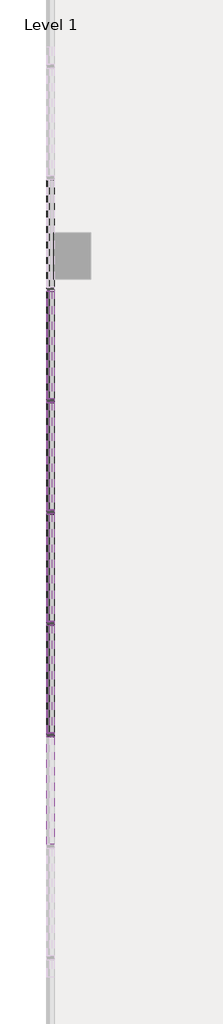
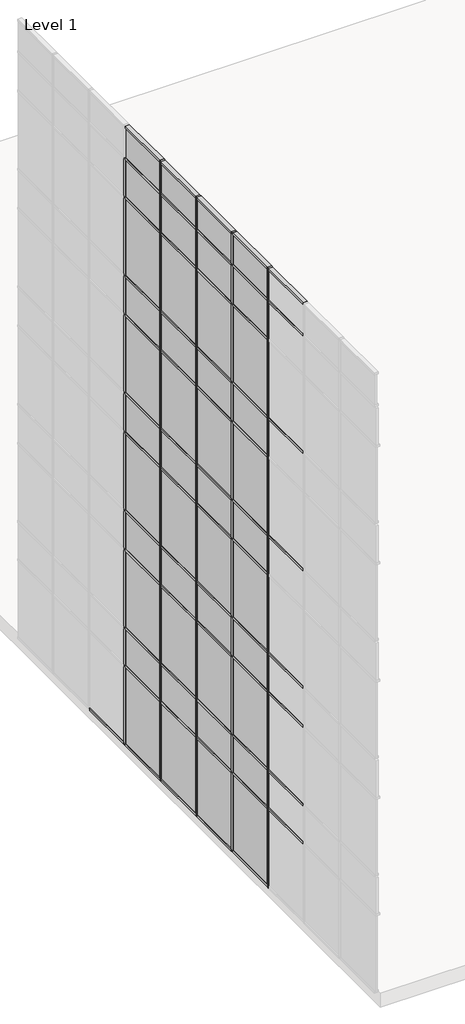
# One storey, part 2 of 23: 86 members, 44 plates.
"""IFC4 building model written with IfcOpenShell, lengths in millimetres."""

from ifc_helpers import new_model, si_unit, origin, place, context, project, spatial, transform, mapped, element, save
from components import member_f92b8aa2, member_810865a4, member_6d5c3e5e, member_9764dd38, system_panel_glazed_14c75400, system_panel_solid_5dfe6f83, system_panel_solid_e25e2004, system_panel_solid_b7551183

model = new_model("IFC4")

# Units and contexts
model_context = context("Model", 3, world=origin())
ifc_project = project(units=[si_unit("LENGTHUNIT", "METRE", prefix="MILLI")], contexts=[model_context])

# Site, building, storey
site = spatial("IfcSite", under=ifc_project)
building = spatial("IfcBuilding", under=site)
storey = spatial("IfcBuildingStorey", under=building, Name="Level 1", Elevation=0.0)

# Members
placement = place(None, origin())
member_shape = member_f92b8aa2(model_context)
element("IfcMember", 1, ObjectType="Rectangular Mullion : 2.5\" x 5\" rectangular", at=placement, inside=storey, context=model_context, shape_type="MappedRepresentation", body=[
    mapped(member_shape, transform((-68724.2599961, -22227.5103492, 18288.0), x_axis=(0.0, 1.0, 0.0), y_axis=(1.0, 0.0, 0.0), z_axis=(0.0, 0.0, -1.0))),
])
element("IfcMember", 2, ObjectType="Rectangular Mullion : 2.5\" x 5\" rectangular", at=placement, inside=storey, context=model_context, shape_type="MappedRepresentation", body=[
    mapped(member_shape, transform((-68724.2599961, -20398.7103492, 18288.0), x_axis=(0.0, 1.0, 0.0), y_axis=(1.0, 0.0, 0.0), z_axis=(0.0, 0.0, -1.0))),
])
element("IfcMember", 3, ObjectType="Rectangular Mullion : 2.5\" x 5\" rectangular", at=placement, inside=storey, context=model_context, shape_type="MappedRepresentation", body=[
    mapped(member_shape, transform((-68724.2599961, -18569.9103492, 18288.0), x_axis=(0.0, 1.0, 0.0), y_axis=(1.0, 0.0, 0.0), z_axis=(0.0, 0.0, -1.0))),
])
element("IfcMember", 4, ObjectType="Rectangular Mullion : 2.5\" x 5\" rectangular", at=placement, inside=storey, context=model_context, shape_type="MappedRepresentation", body=[
    mapped(member_shape, transform((-68724.2599961, -16741.1103492, 18288.0), x_axis=(0.0, 1.0, 0.0), y_axis=(1.0, 0.0, 0.0), z_axis=(0.0, 0.0, -1.0))),
])
member_2_shape = member_810865a4(model_context)
element("IfcMember", 5, ObjectType="Rectangular Mullion : 2.5\" x 5\" rectangular", at=placement, inside=storey, context=model_context, shape_type="MappedRepresentation", body=[
    mapped(member_2_shape, transform((-68724.2599961, -22227.5103492, 3657.6), x_axis=(0.0, 1.0, 0.0), y_axis=(1.0, 0.0, 0.0), z_axis=(0.0, 0.0, -1.0))),
])
element("IfcMember", 6, ObjectType="Rectangular Mullion : 2.5\" x 5\" rectangular", at=placement, inside=storey, context=model_context, shape_type="MappedRepresentation", body=[
    mapped(member_2_shape, transform((-68724.2599961, -20398.7103492, 3657.6), x_axis=(0.0, 1.0, 0.0), y_axis=(1.0, 0.0, 0.0), z_axis=(0.0, 0.0, -1.0))),
])
element("IfcMember", 7, ObjectType="Rectangular Mullion : 2.5\" x 5\" rectangular", at=placement, inside=storey, context=model_context, shape_type="MappedRepresentation", body=[
    mapped(member_2_shape, transform((-68724.2599961, -18569.9103492, 3657.6), x_axis=(0.0, 1.0, 0.0), y_axis=(1.0, 0.0, 0.0), z_axis=(0.0, 0.0, -1.0))),
])
element("IfcMember", 8, ObjectType="Rectangular Mullion : 2.5\" x 5\" rectangular", at=placement, inside=storey, context=model_context, shape_type="MappedRepresentation", body=[
    mapped(member_2_shape, transform((-68724.2599961, -16741.1103492, 3657.6), x_axis=(0.0, 1.0, 0.0), y_axis=(1.0, 0.0, 0.0), z_axis=(0.0, 0.0, -1.0))),
])
element("IfcMember", 9, ObjectType="Rectangular Mullion : 2.5\" x 5\" rectangular", at=placement, inside=storey, context=model_context, shape_type="MappedRepresentation", body=[
    mapped(member_2_shape, transform((-68724.2599961, -14912.3103492, 3657.6), x_axis=(0.0, 1.0, 0.0), y_axis=(1.0, 0.0, 0.0), z_axis=(0.0, 0.0, -1.0))),
])
element("IfcMember", 10, ObjectType="Rectangular Mullion : 2.5\" x 5\" rectangular", at=placement, inside=storey, context=model_context, shape_type="MappedRepresentation", body=[
    mapped(member_2_shape, transform((-68724.2599961, -22227.5103492, 7315.2), x_axis=(0.0, 1.0, 0.0), y_axis=(1.0, 0.0, 0.0), z_axis=(0.0, 0.0, -1.0))),
])
element("IfcMember", 11, ObjectType="Rectangular Mullion : 2.5\" x 5\" rectangular", at=placement, inside=storey, context=model_context, shape_type="MappedRepresentation", body=[
    mapped(member_2_shape, transform((-68724.2599961, -20398.7103492, 7315.2), x_axis=(0.0, 1.0, 0.0), y_axis=(1.0, 0.0, 0.0), z_axis=(0.0, 0.0, -1.0))),
])
element("IfcMember", 12, ObjectType="Rectangular Mullion : 2.5\" x 5\" rectangular", at=placement, inside=storey, context=model_context, shape_type="MappedRepresentation", body=[
    mapped(member_2_shape, transform((-68724.2599961, -18569.9103492, 7315.2), x_axis=(0.0, 1.0, 0.0), y_axis=(1.0, 0.0, 0.0), z_axis=(0.0, 0.0, -1.0))),
])
element("IfcMember", 13, ObjectType="Rectangular Mullion : 2.5\" x 5\" rectangular", at=placement, inside=storey, context=model_context, shape_type="MappedRepresentation", body=[
    mapped(member_2_shape, transform((-68724.2599961, -16741.1103492, 7315.2), x_axis=(0.0, 1.0, 0.0), y_axis=(1.0, 0.0, 0.0), z_axis=(0.0, 0.0, -1.0))),
])
element("IfcMember", 14, ObjectType="Rectangular Mullion : 2.5\" x 5\" rectangular", at=placement, inside=storey, context=model_context, shape_type="MappedRepresentation", body=[
    mapped(member_2_shape, transform((-68724.2599961, -14912.3103492, 7315.2), x_axis=(0.0, 1.0, 0.0), y_axis=(1.0, 0.0, 0.0), z_axis=(0.0, 0.0, -1.0))),
])
element("IfcMember", 15, ObjectType="Rectangular Mullion : 2.5\" x 5\" rectangular", at=placement, inside=storey, context=model_context, shape_type="MappedRepresentation", body=[
    mapped(member_2_shape, transform((-68724.2599961, -22227.5103492, 10972.8), x_axis=(0.0, 1.0, 0.0), y_axis=(1.0, 0.0, 0.0), z_axis=(0.0, 0.0, -1.0))),
])
element("IfcMember", 16, ObjectType="Rectangular Mullion : 2.5\" x 5\" rectangular", at=placement, inside=storey, context=model_context, shape_type="MappedRepresentation", body=[
    mapped(member_2_shape, transform((-68724.2599961, -20398.7103492, 10972.8), x_axis=(0.0, 1.0, 0.0), y_axis=(1.0, 0.0, 0.0), z_axis=(0.0, 0.0, -1.0))),
])
element("IfcMember", 17, ObjectType="Rectangular Mullion : 2.5\" x 5\" rectangular", at=placement, inside=storey, context=model_context, shape_type="MappedRepresentation", body=[
    mapped(member_2_shape, transform((-68724.2599961, -18569.9103492, 10972.8), x_axis=(0.0, 1.0, 0.0), y_axis=(1.0, 0.0, 0.0), z_axis=(0.0, 0.0, -1.0))),
])
element("IfcMember", 18, ObjectType="Rectangular Mullion : 2.5\" x 5\" rectangular", at=placement, inside=storey, context=model_context, shape_type="MappedRepresentation", body=[
    mapped(member_2_shape, transform((-68724.2599961, -16741.1103492, 10972.8), x_axis=(0.0, 1.0, 0.0), y_axis=(1.0, 0.0, 0.0), z_axis=(0.0, 0.0, -1.0))),
])
element("IfcMember", 19, ObjectType="Rectangular Mullion : 2.5\" x 5\" rectangular", at=placement, inside=storey, context=model_context, shape_type="MappedRepresentation", body=[
    mapped(member_2_shape, transform((-68724.2599961, -14912.3103492, 10972.8), x_axis=(0.0, 1.0, 0.0), y_axis=(1.0, 0.0, 0.0), z_axis=(0.0, 0.0, -1.0))),
])
element("IfcMember", 20, ObjectType="Rectangular Mullion : 2.5\" x 5\" rectangular", at=placement, inside=storey, context=model_context, shape_type="MappedRepresentation", body=[
    mapped(member_2_shape, transform((-68724.2599961, -22227.5103492, 14630.4), x_axis=(0.0, 1.0, 0.0), y_axis=(1.0, 0.0, 0.0), z_axis=(0.0, 0.0, -1.0))),
])
element("IfcMember", 21, ObjectType="Rectangular Mullion : 2.5\" x 5\" rectangular", at=placement, inside=storey, context=model_context, shape_type="MappedRepresentation", body=[
    mapped(member_2_shape, transform((-68724.2599961, -20398.7103492, 14630.4), x_axis=(0.0, 1.0, 0.0), y_axis=(1.0, 0.0, 0.0), z_axis=(0.0, 0.0, -1.0))),
])
element("IfcMember", 22, ObjectType="Rectangular Mullion : 2.5\" x 5\" rectangular", at=placement, inside=storey, context=model_context, shape_type="MappedRepresentation", body=[
    mapped(member_2_shape, transform((-68724.2599961, -18569.9103492, 14630.4), x_axis=(0.0, 1.0, 0.0), y_axis=(1.0, 0.0, 0.0), z_axis=(0.0, 0.0, -1.0))),
])
element("IfcMember", 23, ObjectType="Rectangular Mullion : 2.5\" x 5\" rectangular", at=placement, inside=storey, context=model_context, shape_type="MappedRepresentation", body=[
    mapped(member_2_shape, transform((-68724.2599961, -16741.1103492, 14630.4), x_axis=(0.0, 1.0, 0.0), y_axis=(1.0, 0.0, 0.0), z_axis=(0.0, 0.0, -1.0))),
])
element("IfcMember", 24, ObjectType="Rectangular Mullion : 2.5\" x 5\" rectangular", at=placement, inside=storey, context=model_context, shape_type="MappedRepresentation", body=[
    mapped(member_2_shape, transform((-68724.2599961, -14912.3103492, 14630.4), x_axis=(0.0, 1.0, 0.0), y_axis=(1.0, 0.0, 0.0), z_axis=(0.0, 0.0, -1.0))),
])
member_3_shape = member_6d5c3e5e(model_context)
element("IfcMember", 25, ObjectType="Rectangular Mullion : 2.5\" x 5\" rectangular", at=placement, inside=storey, context=model_context, shape_type="MappedRepresentation", body=[
    mapped(member_3_shape, transform((-68724.2599961, -22259.2603492, 19304.0), x_axis=(0.0, 0.0, 1.0), y_axis=(1.0, 0.0, 0.0), z_axis=(0.0, 1.0, 0.0))),
])
element("IfcMember", 26, ObjectType="Rectangular Mullion : 2.5\" x 5\" rectangular", at=placement, inside=storey, context=model_context, shape_type="MappedRepresentation", body=[
    mapped(member_3_shape, transform((-68724.2599961, -20430.4603492, 19304.0), x_axis=(0.0, 0.0, 1.0), y_axis=(1.0, 0.0, 0.0), z_axis=(0.0, 1.0, 0.0))),
])
element("IfcMember", 27, ObjectType="Rectangular Mullion : 2.5\" x 5\" rectangular", at=placement, inside=storey, context=model_context, shape_type="MappedRepresentation", body=[
    mapped(member_3_shape, transform((-68724.2599961, -18601.6603492, 19304.0), x_axis=(0.0, 0.0, 1.0), y_axis=(1.0, 0.0, 0.0), z_axis=(0.0, 1.0, 0.0))),
])
element("IfcMember", 28, ObjectType="Rectangular Mullion : 2.5\" x 5\" rectangular", at=placement, inside=storey, context=model_context, shape_type="MappedRepresentation", body=[
    mapped(member_3_shape, transform((-68724.2599961, -16772.8603492, 19304.0), x_axis=(0.0, 0.0, 1.0), y_axis=(1.0, 0.0, 0.0), z_axis=(0.0, 1.0, 0.0))),
])
element("IfcMember", 29, ObjectType="Rectangular Mullion : 2.5\" x 5\" rectangular", at=placement, inside=storey, context=model_context, shape_type="MappedRepresentation", body=[
    mapped(member_3_shape, transform((-68724.2599961, -14944.0603492, 19304.0), x_axis=(0.0, 0.0, 1.0), y_axis=(1.0, 0.0, 0.0), z_axis=(0.0, 1.0, 0.0))),
])
member_4_shape = member_9764dd38(model_context)
element("IfcMember", 30, ObjectType="Rectangular Mullion : 2.5\" x 5\" rectangular", at=placement, inside=storey, context=model_context, shape_type="MappedRepresentation", body=[
    mapped(member_4_shape, transform((-68724.2599961, -14944.0603492, 17068.8), x_axis=(0.0, 0.0, 1.0), y_axis=(1.0, 0.0, 0.0), z_axis=(0.0, 1.0, 0.0))),
])
element("IfcMember", 31, ObjectType="Rectangular Mullion : 2.5\" x 5\" rectangular", at=placement, inside=storey, context=model_context, shape_type="MappedRepresentation", body=[
    mapped(member_4_shape, transform((-68724.2599961, -16772.8603492, 17068.8), x_axis=(0.0, 0.0, 1.0), y_axis=(1.0, 0.0, 0.0), z_axis=(0.0, 1.0, 0.0))),
])
element("IfcMember", 32, ObjectType="Rectangular Mullion : 2.5\" x 5\" rectangular", at=placement, inside=storey, context=model_context, shape_type="MappedRepresentation", body=[
    mapped(member_4_shape, transform((-68724.2599961, -18601.6603492, 17068.8), x_axis=(0.0, 0.0, 1.0), y_axis=(1.0, 0.0, 0.0), z_axis=(0.0, 1.0, 0.0))),
])
element("IfcMember", 33, ObjectType="Rectangular Mullion : 2.5\" x 5\" rectangular", at=placement, inside=storey, context=model_context, shape_type="MappedRepresentation", body=[
    mapped(member_4_shape, transform((-68724.2599961, -20430.4603492, 17068.8), x_axis=(0.0, 0.0, 1.0), y_axis=(1.0, 0.0, 0.0), z_axis=(0.0, 1.0, 0.0))),
])
element("IfcMember", 34, ObjectType="Rectangular Mullion : 2.5\" x 5\" rectangular", at=placement, inside=storey, context=model_context, shape_type="MappedRepresentation", body=[
    mapped(member_4_shape, transform((-68724.2599961, -14944.0603492, 13411.2), x_axis=(0.0, 0.0, 1.0), y_axis=(1.0, 0.0, 0.0), z_axis=(0.0, 1.0, 0.0))),
])
element("IfcMember", 35, ObjectType="Rectangular Mullion : 2.5\" x 5\" rectangular", at=placement, inside=storey, context=model_context, shape_type="MappedRepresentation", body=[
    mapped(member_4_shape, transform((-68724.2599961, -16772.8603492, 13411.2), x_axis=(0.0, 0.0, 1.0), y_axis=(1.0, 0.0, 0.0), z_axis=(0.0, 1.0, 0.0))),
])
element("IfcMember", 36, ObjectType="Rectangular Mullion : 2.5\" x 5\" rectangular", at=placement, inside=storey, context=model_context, shape_type="MappedRepresentation", body=[
    mapped(member_4_shape, transform((-68724.2599961, -18601.6603492, 13411.2), x_axis=(0.0, 0.0, 1.0), y_axis=(1.0, 0.0, 0.0), z_axis=(0.0, 1.0, 0.0))),
])
element("IfcMember", 37, ObjectType="Rectangular Mullion : 2.5\" x 5\" rectangular", at=placement, inside=storey, context=model_context, shape_type="MappedRepresentation", body=[
    mapped(member_4_shape, transform((-68724.2599961, -20430.4603492, 13411.2), x_axis=(0.0, 0.0, 1.0), y_axis=(1.0, 0.0, 0.0), z_axis=(0.0, 1.0, 0.0))),
])
element("IfcMember", 38, ObjectType="Rectangular Mullion : 2.5\" x 5\" rectangular", at=placement, inside=storey, context=model_context, shape_type="MappedRepresentation", body=[
    mapped(member_4_shape, transform((-68724.2599961, -14944.0603492, 9753.6), x_axis=(0.0, 0.0, 1.0), y_axis=(1.0, 0.0, 0.0), z_axis=(0.0, 1.0, 0.0))),
])
element("IfcMember", 39, ObjectType="Rectangular Mullion : 2.5\" x 5\" rectangular", at=placement, inside=storey, context=model_context, shape_type="MappedRepresentation", body=[
    mapped(member_4_shape, transform((-68724.2599961, -16772.8603492, 9753.6), x_axis=(0.0, 0.0, 1.0), y_axis=(1.0, 0.0, 0.0), z_axis=(0.0, 1.0, 0.0))),
])
element("IfcMember", 40, ObjectType="Rectangular Mullion : 2.5\" x 5\" rectangular", at=placement, inside=storey, context=model_context, shape_type="MappedRepresentation", body=[
    mapped(member_4_shape, transform((-68724.2599961, -18601.6603492, 9753.6), x_axis=(0.0, 0.0, 1.0), y_axis=(1.0, 0.0, 0.0), z_axis=(0.0, 1.0, 0.0))),
])
element("IfcMember", 41, ObjectType="Rectangular Mullion : 2.5\" x 5\" rectangular", at=placement, inside=storey, context=model_context, shape_type="MappedRepresentation", body=[
    mapped(member_4_shape, transform((-68724.2599961, -20430.4603492, 9753.6), x_axis=(0.0, 0.0, 1.0), y_axis=(1.0, 0.0, 0.0), z_axis=(0.0, 1.0, 0.0))),
])
element("IfcMember", 42, ObjectType="Rectangular Mullion : 2.5\" x 5\" rectangular", at=placement, inside=storey, context=model_context, shape_type="MappedRepresentation", body=[
    mapped(member_4_shape, transform((-68724.2599961, -14944.0603492, 6096.0), x_axis=(0.0, 0.0, 1.0), y_axis=(1.0, 0.0, 0.0), z_axis=(0.0, 1.0, 0.0))),
])
element("IfcMember", 43, ObjectType="Rectangular Mullion : 2.5\" x 5\" rectangular", at=placement, inside=storey, context=model_context, shape_type="MappedRepresentation", body=[
    mapped(member_4_shape, transform((-68724.2599961, -16772.8603492, 6096.0), x_axis=(0.0, 0.0, 1.0), y_axis=(1.0, 0.0, 0.0), z_axis=(0.0, 1.0, 0.0))),
])
element("IfcMember", 44, ObjectType="Rectangular Mullion : 2.5\" x 5\" rectangular", at=placement, inside=storey, context=model_context, shape_type="MappedRepresentation", body=[
    mapped(member_4_shape, transform((-68724.2599961, -18601.6603492, 6096.0), x_axis=(0.0, 0.0, 1.0), y_axis=(1.0, 0.0, 0.0), z_axis=(0.0, 1.0, 0.0))),
])
element("IfcMember", 45, ObjectType="Rectangular Mullion : 2.5\" x 5\" rectangular", at=placement, inside=storey, context=model_context, shape_type="MappedRepresentation", body=[
    mapped(member_4_shape, transform((-68724.2599961, -20430.4603492, 6096.0), x_axis=(0.0, 0.0, 1.0), y_axis=(1.0, 0.0, 0.0), z_axis=(0.0, 1.0, 0.0))),
])
element("IfcMember", 46, ObjectType="Rectangular Mullion : 2.5\" x 5\" rectangular", at=placement, inside=storey, context=model_context, shape_type="MappedRepresentation", body=[
    mapped(member_4_shape, transform((-68724.2599961, -22259.2603492, 6096.0), x_axis=(0.0, 0.0, 1.0), y_axis=(1.0, 0.0, 0.0), z_axis=(0.0, 1.0, 0.0))),
])
element("IfcMember", 47, ObjectType="Rectangular Mullion : 2.5\" x 5\" rectangular", at=placement, inside=storey, context=model_context, shape_type="MappedRepresentation", body=[
    mapped(member_4_shape, transform((-68724.2599961, -14944.0603492, 2470.15), x_axis=(0.0, 0.0, 1.0), y_axis=(1.0, 0.0, 0.0), z_axis=(0.0, 1.0, 0.0))),
])
element("IfcMember", 48, ObjectType="Rectangular Mullion : 2.5\" x 5\" rectangular", at=placement, inside=storey, context=model_context, shape_type="MappedRepresentation", body=[
    mapped(member_4_shape, transform((-68724.2599961, -16772.8603492, 2470.15), x_axis=(0.0, 0.0, 1.0), y_axis=(1.0, 0.0, 0.0), z_axis=(0.0, 1.0, 0.0))),
])
element("IfcMember", 49, ObjectType="Rectangular Mullion : 2.5\" x 5\" rectangular", at=placement, inside=storey, context=model_context, shape_type="MappedRepresentation", body=[
    mapped(member_4_shape, transform((-68724.2599961, -18601.6603492, 2470.15), x_axis=(0.0, 0.0, 1.0), y_axis=(1.0, 0.0, 0.0), z_axis=(0.0, 1.0, 0.0))),
])
element("IfcMember", 50, ObjectType="Rectangular Mullion : 2.5\" x 5\" rectangular", at=placement, inside=storey, context=model_context, shape_type="MappedRepresentation", body=[
    mapped(member_4_shape, transform((-68724.2599961, -20430.4603492, 2470.15), x_axis=(0.0, 0.0, 1.0), y_axis=(1.0, 0.0, 0.0), z_axis=(0.0, 1.0, 0.0))),
])
element("IfcMember", 51, ObjectType="Rectangular Mullion : 2.5\" x 5\" rectangular", at=placement, inside=storey, context=model_context, shape_type="MappedRepresentation", body=[
    mapped(member_4_shape, transform((-68724.2599961, -22259.2603492, 2470.15), x_axis=(0.0, 0.0, 1.0), y_axis=(1.0, 0.0, 0.0), z_axis=(0.0, 1.0, 0.0))),
])
element("IfcMember", 52, ObjectType="Rectangular Mullion : 2.5\" x 5\" rectangular", at=placement, inside=storey, context=model_context, shape_type="MappedRepresentation", body=[
    mapped(member_2_shape, transform((-68724.2599961, -22227.5103492, 0.0), x_axis=(0.0, 1.0, 0.0), y_axis=(1.0, 0.0, 0.0), z_axis=(0.0, 0.0, -1.0))),
])
element("IfcMember", 53, ObjectType="Rectangular Mullion : 2.5\" x 5\" rectangular", at=placement, inside=storey, context=model_context, shape_type="MappedRepresentation", body=[
    mapped(member_2_shape, transform((-68724.2599961, -20398.7103492, 0.0), x_axis=(0.0, 1.0, 0.0), y_axis=(1.0, 0.0, 0.0), z_axis=(0.0, 0.0, -1.0))),
])
element("IfcMember", 54, ObjectType="Rectangular Mullion : 2.5\" x 5\" rectangular", at=placement, inside=storey, context=model_context, shape_type="MappedRepresentation", body=[
    mapped(member_2_shape, transform((-68724.2599961, -18569.9103492, 0.0), x_axis=(0.0, 1.0, 0.0), y_axis=(1.0, 0.0, 0.0), z_axis=(0.0, 0.0, -1.0))),
])
element("IfcMember", 55, ObjectType="Rectangular Mullion : 2.5\" x 5\" rectangular", at=placement, inside=storey, context=model_context, shape_type="MappedRepresentation", body=[
    mapped(member_2_shape, transform((-68724.2599961, -16741.1103492, 0.0), x_axis=(0.0, 1.0, 0.0), y_axis=(1.0, 0.0, 0.0), z_axis=(0.0, 0.0, -1.0))),
])
element("IfcMember", 56, ObjectType="Rectangular Mullion : 2.5\" x 5\" rectangular", at=placement, inside=storey, context=model_context, shape_type="MappedRepresentation", body=[
    mapped(member_2_shape, transform((-68724.2599961, -14912.3103492, 0.0), x_axis=(0.0, 1.0, 0.0), y_axis=(1.0, 0.0, 0.0), z_axis=(0.0, 0.0, -1.0))),
])
element("IfcMember", 57, ObjectType="Rectangular Mullion : 2.5\" x 5\" rectangular", at=placement, inside=storey, context=model_context, shape_type="MappedRepresentation", body=[
    mapped(member_3_shape, transform((-68724.2599961, -22195.7603492, 0.0), x_axis=(0.0, 0.0, -1.0), y_axis=(1.0, 0.0, 0.0), z_axis=(0.0, -1.0, 0.0))),
])
element("IfcMember", 58, ObjectType="Rectangular Mullion : 2.5\" x 5\" rectangular", at=placement, inside=storey, context=model_context, shape_type="MappedRepresentation", body=[
    mapped(member_3_shape, transform((-68724.2599961, -20366.9603492, 0.0), x_axis=(0.0, 0.0, -1.0), y_axis=(1.0, 0.0, 0.0), z_axis=(0.0, -1.0, 0.0))),
])
element("IfcMember", 59, ObjectType="Rectangular Mullion : 2.5\" x 5\" rectangular", at=placement, inside=storey, context=model_context, shape_type="MappedRepresentation", body=[
    mapped(member_3_shape, transform((-68724.2599961, -18538.1603492, 0.0), x_axis=(0.0, 0.0, -1.0), y_axis=(1.0, 0.0, 0.0), z_axis=(0.0, -1.0, 0.0))),
])
element("IfcMember", 60, ObjectType="Rectangular Mullion : 2.5\" x 5\" rectangular", at=placement, inside=storey, context=model_context, shape_type="MappedRepresentation", body=[
    mapped(member_3_shape, transform((-68724.2599961, -16709.3603492, 0.0), x_axis=(0.0, 0.0, -1.0), y_axis=(1.0, 0.0, 0.0), z_axis=(0.0, -1.0, 0.0))),
])
element("IfcMember", 61, ObjectType="Rectangular Mullion : 2.5\" x 5\" rectangular", at=placement, inside=storey, context=model_context, shape_type="MappedRepresentation", body=[
    mapped(member_3_shape, transform((-68724.2599961, -14880.5603492, 0.0), x_axis=(0.0, 0.0, -1.0), y_axis=(1.0, 0.0, 0.0), z_axis=(0.0, -1.0, 0.0))),
])
element("IfcMember", 62, ObjectType="Rectangular Mullion : 2.5\" x 5\" rectangular", at=placement, inside=storey, context=model_context, shape_type="MappedRepresentation", body=[
    mapped(member_4_shape, transform((-68724.2599961, -22259.2603492, 3657.6), x_axis=(0.0, 0.0, 1.0), y_axis=(1.0, 0.0, 0.0), z_axis=(0.0, 1.0, 0.0))),
])
element("IfcMember", 63, ObjectType="Rectangular Mullion : 2.5\" x 5\" rectangular", at=placement, inside=storey, context=model_context, shape_type="MappedRepresentation", body=[
    mapped(member_4_shape, transform((-68724.2599961, -20430.4603492, 3657.6), x_axis=(0.0, 0.0, 1.0), y_axis=(1.0, 0.0, 0.0), z_axis=(0.0, 1.0, 0.0))),
])
element("IfcMember", 64, ObjectType="Rectangular Mullion : 2.5\" x 5\" rectangular", at=placement, inside=storey, context=model_context, shape_type="MappedRepresentation", body=[
    mapped(member_4_shape, transform((-68724.2599961, -18601.6603492, 3657.6), x_axis=(0.0, 0.0, 1.0), y_axis=(1.0, 0.0, 0.0), z_axis=(0.0, 1.0, 0.0))),
])
element("IfcMember", 65, ObjectType="Rectangular Mullion : 2.5\" x 5\" rectangular", at=placement, inside=storey, context=model_context, shape_type="MappedRepresentation", body=[
    mapped(member_4_shape, transform((-68724.2599961, -16772.8603492, 3657.6), x_axis=(0.0, 0.0, 1.0), y_axis=(1.0, 0.0, 0.0), z_axis=(0.0, 1.0, 0.0))),
])
element("IfcMember", 66, ObjectType="Rectangular Mullion : 2.5\" x 5\" rectangular", at=placement, inside=storey, context=model_context, shape_type="MappedRepresentation", body=[
    mapped(member_4_shape, transform((-68724.2599961, -14944.0603492, 3657.6), x_axis=(0.0, 0.0, 1.0), y_axis=(1.0, 0.0, 0.0), z_axis=(0.0, 1.0, 0.0))),
])
element("IfcMember", 67, ObjectType="Rectangular Mullion : 2.5\" x 5\" rectangular", at=placement, inside=storey, context=model_context, shape_type="MappedRepresentation", body=[
    mapped(member_4_shape, transform((-68724.2599961, -22259.2603492, 7315.2), x_axis=(0.0, 0.0, 1.0), y_axis=(1.0, 0.0, 0.0), z_axis=(0.0, 1.0, 0.0))),
])
element("IfcMember", 68, ObjectType="Rectangular Mullion : 2.5\" x 5\" rectangular", at=placement, inside=storey, context=model_context, shape_type="MappedRepresentation", body=[
    mapped(member_4_shape, transform((-68724.2599961, -20430.4603492, 7315.2), x_axis=(0.0, 0.0, 1.0), y_axis=(1.0, 0.0, 0.0), z_axis=(0.0, 1.0, 0.0))),
])
element("IfcMember", 69, ObjectType="Rectangular Mullion : 2.5\" x 5\" rectangular", at=placement, inside=storey, context=model_context, shape_type="MappedRepresentation", body=[
    mapped(member_4_shape, transform((-68724.2599961, -18601.6603492, 7315.2), x_axis=(0.0, 0.0, 1.0), y_axis=(1.0, 0.0, 0.0), z_axis=(0.0, 1.0, 0.0))),
])
element("IfcMember", 70, ObjectType="Rectangular Mullion : 2.5\" x 5\" rectangular", at=placement, inside=storey, context=model_context, shape_type="MappedRepresentation", body=[
    mapped(member_4_shape, transform((-68724.2599961, -16772.8603492, 7315.2), x_axis=(0.0, 0.0, 1.0), y_axis=(1.0, 0.0, 0.0), z_axis=(0.0, 1.0, 0.0))),
])
element("IfcMember", 71, ObjectType="Rectangular Mullion : 2.5\" x 5\" rectangular", at=placement, inside=storey, context=model_context, shape_type="MappedRepresentation", body=[
    mapped(member_4_shape, transform((-68724.2599961, -14944.0603492, 7315.2), x_axis=(0.0, 0.0, 1.0), y_axis=(1.0, 0.0, 0.0), z_axis=(0.0, 1.0, 0.0))),
])
element("IfcMember", 72, ObjectType="Rectangular Mullion : 2.5\" x 5\" rectangular", at=placement, inside=storey, context=model_context, shape_type="MappedRepresentation", body=[
    mapped(member_4_shape, transform((-68724.2599961, -22259.2603492, 10972.8), x_axis=(0.0, 0.0, 1.0), y_axis=(1.0, 0.0, 0.0), z_axis=(0.0, 1.0, 0.0))),
])
element("IfcMember", 73, ObjectType="Rectangular Mullion : 2.5\" x 5\" rectangular", at=placement, inside=storey, context=model_context, shape_type="MappedRepresentation", body=[
    mapped(member_4_shape, transform((-68724.2599961, -20430.4603492, 10972.8), x_axis=(0.0, 0.0, 1.0), y_axis=(1.0, 0.0, 0.0), z_axis=(0.0, 1.0, 0.0))),
])
element("IfcMember", 74, ObjectType="Rectangular Mullion : 2.5\" x 5\" rectangular", at=placement, inside=storey, context=model_context, shape_type="MappedRepresentation", body=[
    mapped(member_4_shape, transform((-68724.2599961, -18601.6603492, 10972.8), x_axis=(0.0, 0.0, 1.0), y_axis=(1.0, 0.0, 0.0), z_axis=(0.0, 1.0, 0.0))),
])
element("IfcMember", 75, ObjectType="Rectangular Mullion : 2.5\" x 5\" rectangular", at=placement, inside=storey, context=model_context, shape_type="MappedRepresentation", body=[
    mapped(member_4_shape, transform((-68724.2599961, -16772.8603492, 10972.8), x_axis=(0.0, 0.0, 1.0), y_axis=(1.0, 0.0, 0.0), z_axis=(0.0, 1.0, 0.0))),
])
element("IfcMember", 76, ObjectType="Rectangular Mullion : 2.5\" x 5\" rectangular", at=placement, inside=storey, context=model_context, shape_type="MappedRepresentation", body=[
    mapped(member_4_shape, transform((-68724.2599961, -14944.0603492, 10972.8), x_axis=(0.0, 0.0, 1.0), y_axis=(1.0, 0.0, 0.0), z_axis=(0.0, 1.0, 0.0))),
])
element("IfcMember", 77, ObjectType="Rectangular Mullion : 2.5\" x 5\" rectangular", at=placement, inside=storey, context=model_context, shape_type="MappedRepresentation", body=[
    mapped(member_4_shape, transform((-68724.2599961, -22259.2603492, 14630.4), x_axis=(0.0, 0.0, 1.0), y_axis=(1.0, 0.0, 0.0), z_axis=(0.0, 1.0, 0.0))),
])
element("IfcMember", 78, ObjectType="Rectangular Mullion : 2.5\" x 5\" rectangular", at=placement, inside=storey, context=model_context, shape_type="MappedRepresentation", body=[
    mapped(member_4_shape, transform((-68724.2599961, -20430.4603492, 14630.4), x_axis=(0.0, 0.0, 1.0), y_axis=(1.0, 0.0, 0.0), z_axis=(0.0, 1.0, 0.0))),
])
element("IfcMember", 79, ObjectType="Rectangular Mullion : 2.5\" x 5\" rectangular", at=placement, inside=storey, context=model_context, shape_type="MappedRepresentation", body=[
    mapped(member_4_shape, transform((-68724.2599961, -18601.6603492, 14630.4), x_axis=(0.0, 0.0, 1.0), y_axis=(1.0, 0.0, 0.0), z_axis=(0.0, 1.0, 0.0))),
])
element("IfcMember", 80, ObjectType="Rectangular Mullion : 2.5\" x 5\" rectangular", at=placement, inside=storey, context=model_context, shape_type="MappedRepresentation", body=[
    mapped(member_4_shape, transform((-68724.2599961, -16772.8603492, 14630.4), x_axis=(0.0, 0.0, 1.0), y_axis=(1.0, 0.0, 0.0), z_axis=(0.0, 1.0, 0.0))),
])
element("IfcMember", 81, ObjectType="Rectangular Mullion : 2.5\" x 5\" rectangular", at=placement, inside=storey, context=model_context, shape_type="MappedRepresentation", body=[
    mapped(member_4_shape, transform((-68724.2599961, -14944.0603492, 14630.4), x_axis=(0.0, 0.0, 1.0), y_axis=(1.0, 0.0, 0.0), z_axis=(0.0, 1.0, 0.0))),
])
element("IfcMember", 82, ObjectType="Rectangular Mullion : 2.5\" x 5\" rectangular", at=placement, inside=storey, context=model_context, shape_type="MappedRepresentation", body=[
    mapped(member_4_shape, transform((-68724.2599961, -22259.2603492, 18288.0), x_axis=(0.0, 0.0, 1.0), y_axis=(1.0, 0.0, 0.0), z_axis=(0.0, 1.0, 0.0))),
])
element("IfcMember", 83, ObjectType="Rectangular Mullion : 2.5\" x 5\" rectangular", at=placement, inside=storey, context=model_context, shape_type="MappedRepresentation", body=[
    mapped(member_4_shape, transform((-68724.2599961, -20430.4603492, 18288.0), x_axis=(0.0, 0.0, 1.0), y_axis=(1.0, 0.0, 0.0), z_axis=(0.0, 1.0, 0.0))),
])
element("IfcMember", 84, ObjectType="Rectangular Mullion : 2.5\" x 5\" rectangular", at=placement, inside=storey, context=model_context, shape_type="MappedRepresentation", body=[
    mapped(member_4_shape, transform((-68724.2599961, -18601.6603492, 18288.0), x_axis=(0.0, 0.0, 1.0), y_axis=(1.0, 0.0, 0.0), z_axis=(0.0, 1.0, 0.0))),
])
element("IfcMember", 85, ObjectType="Rectangular Mullion : 2.5\" x 5\" rectangular", at=placement, inside=storey, context=model_context, shape_type="MappedRepresentation", body=[
    mapped(member_4_shape, transform((-68724.2599961, -16772.8603492, 18288.0), x_axis=(0.0, 0.0, 1.0), y_axis=(1.0, 0.0, 0.0), z_axis=(0.0, 1.0, 0.0))),
])
element("IfcMember", 86, ObjectType="Rectangular Mullion : 2.5\" x 5\" rectangular", at=placement, inside=storey, context=model_context, shape_type="MappedRepresentation", body=[
    mapped(member_4_shape, transform((-68724.2599961, -14944.0603492, 18288.0), x_axis=(0.0, 0.0, 1.0), y_axis=(1.0, 0.0, 0.0), z_axis=(0.0, 1.0, 0.0))),
])

# Plates
system_panel_glazed_shape = system_panel_glazed_14c75400(model_context)
element("IfcPlate", 87, ObjectType="System Panel : Glazed", at=placement, inside=storey, context=model_context, shape_type="MappedRepresentation", body=[
    mapped(system_panel_glazed_shape, transform((-68724.2599961, -15826.7103492, 14662.15), x_axis=(0.0, 1.0, 0.0), y_axis=(-1.0, 0.0, 0.0), z_axis=(0.0, 0.0, 1.0))),
])
element("IfcPlate", 88, ObjectType="System Panel : Glazed", at=placement, inside=storey, context=model_context, shape_type="MappedRepresentation", body=[
    mapped(system_panel_glazed_shape, transform((-68724.2599961, -17655.5103492, 14662.15), x_axis=(0.0, 1.0, 0.0), y_axis=(-1.0, 0.0, 0.0), z_axis=(0.0, 0.0, 1.0))),
])
element("IfcPlate", 89, ObjectType="System Panel : Glazed", at=placement, inside=storey, context=model_context, shape_type="MappedRepresentation", body=[
    mapped(system_panel_glazed_shape, transform((-68724.2599961, -19484.3103492, 14662.15), x_axis=(0.0, 1.0, 0.0), y_axis=(-1.0, 0.0, 0.0), z_axis=(0.0, 0.0, 1.0))),
])
element("IfcPlate", 90, ObjectType="System Panel : Glazed", at=placement, inside=storey, context=model_context, shape_type="MappedRepresentation", body=[
    mapped(system_panel_glazed_shape, transform((-68724.2599961, -21313.1103492, 14662.15), x_axis=(0.0, 1.0, 0.0), y_axis=(-1.0, 0.0, 0.0), z_axis=(0.0, 0.0, 1.0))),
])
element("IfcPlate", 91, ObjectType="System Panel : Glazed", at=placement, inside=storey, context=model_context, shape_type="MappedRepresentation", body=[
    mapped(system_panel_glazed_shape, transform((-68724.2599961, -15826.7103492, 11004.55), x_axis=(0.0, 1.0, 0.0), y_axis=(-1.0, 0.0, 0.0), z_axis=(0.0, 0.0, 1.0))),
])
element("IfcPlate", 92, ObjectType="System Panel : Glazed", at=placement, inside=storey, context=model_context, shape_type="MappedRepresentation", body=[
    mapped(system_panel_glazed_shape, transform((-68724.2599961, -17655.5103492, 11004.55), x_axis=(0.0, 1.0, 0.0), y_axis=(-1.0, 0.0, 0.0), z_axis=(0.0, 0.0, 1.0))),
])
element("IfcPlate", 93, ObjectType="System Panel : Glazed", at=placement, inside=storey, context=model_context, shape_type="MappedRepresentation", body=[
    mapped(system_panel_glazed_shape, transform((-68724.2599961, -19484.3103492, 11004.55), x_axis=(0.0, 1.0, 0.0), y_axis=(-1.0, 0.0, 0.0), z_axis=(0.0, 0.0, 1.0))),
])
element("IfcPlate", 94, ObjectType="System Panel : Glazed", at=placement, inside=storey, context=model_context, shape_type="MappedRepresentation", body=[
    mapped(system_panel_glazed_shape, transform((-68724.2599961, -21313.1103492, 11004.55), x_axis=(0.0, 1.0, 0.0), y_axis=(-1.0, 0.0, 0.0), z_axis=(0.0, 0.0, 1.0))),
])
element("IfcPlate", 95, ObjectType="System Panel : Glazed", at=placement, inside=storey, context=model_context, shape_type="MappedRepresentation", body=[
    mapped(system_panel_glazed_shape, transform((-68724.2599961, -15826.7103492, 7346.95), x_axis=(0.0, 1.0, 0.0), y_axis=(-1.0, 0.0, 0.0), z_axis=(0.0, 0.0, 1.0))),
])
element("IfcPlate", 96, ObjectType="System Panel : Glazed", at=placement, inside=storey, context=model_context, shape_type="MappedRepresentation", body=[
    mapped(system_panel_glazed_shape, transform((-68724.2599961, -17655.5103492, 7346.95), x_axis=(0.0, 1.0, 0.0), y_axis=(-1.0, 0.0, 0.0), z_axis=(0.0, 0.0, 1.0))),
])
element("IfcPlate", 97, ObjectType="System Panel : Glazed", at=placement, inside=storey, context=model_context, shape_type="MappedRepresentation", body=[
    mapped(system_panel_glazed_shape, transform((-68724.2599961, -19484.3103492, 7346.95), x_axis=(0.0, 1.0, 0.0), y_axis=(-1.0, 0.0, 0.0), z_axis=(0.0, 0.0, 1.0))),
])
element("IfcPlate", 98, ObjectType="System Panel : Glazed", at=placement, inside=storey, context=model_context, shape_type="MappedRepresentation", body=[
    mapped(system_panel_glazed_shape, transform((-68724.2599961, -21313.1103492, 7346.95), x_axis=(0.0, 1.0, 0.0), y_axis=(-1.0, 0.0, 0.0), z_axis=(0.0, 0.0, 1.0))),
])
element("IfcPlate", 99, ObjectType="System Panel : Glazed", at=placement, inside=storey, context=model_context, shape_type="MappedRepresentation", body=[
    mapped(system_panel_glazed_shape, transform((-68724.2599961, -15826.7103492, 3689.35), x_axis=(0.0, 1.0, 0.0), y_axis=(-1.0, 0.0, 0.0), z_axis=(0.0, 0.0, 1.0))),
])
element("IfcPlate", 100, ObjectType="System Panel : Glazed", at=placement, inside=storey, context=model_context, shape_type="MappedRepresentation", body=[
    mapped(system_panel_glazed_shape, transform((-68724.2599961, -17655.5103492, 3689.35), x_axis=(0.0, 1.0, 0.0), y_axis=(-1.0, 0.0, 0.0), z_axis=(0.0, 0.0, 1.0))),
])
element("IfcPlate", 101, ObjectType="System Panel : Glazed", at=placement, inside=storey, context=model_context, shape_type="MappedRepresentation", body=[
    mapped(system_panel_glazed_shape, transform((-68724.2599961, -19484.3103492, 3689.35), x_axis=(0.0, 1.0, 0.0), y_axis=(-1.0, 0.0, 0.0), z_axis=(0.0, 0.0, 1.0))),
])
element("IfcPlate", 102, ObjectType="System Panel : Glazed", at=placement, inside=storey, context=model_context, shape_type="MappedRepresentation", body=[
    mapped(system_panel_glazed_shape, transform((-68724.2599961, -21313.1103492, 3689.35), x_axis=(0.0, 1.0, 0.0), y_axis=(-1.0, 0.0, 0.0), z_axis=(0.0, 0.0, 1.0))),
])
element("IfcPlate", 103, ObjectType="System Panel : Glazed", at=placement, inside=storey, context=model_context, shape_type="MappedRepresentation", body=[
    mapped(system_panel_glazed_shape, transform((-68724.2599961, -15826.7103492, 63.5), x_axis=(0.0, 1.0, 0.0), y_axis=(-1.0, 0.0, 0.0), z_axis=(0.0, 0.0, 1.0))),
])
element("IfcPlate", 104, ObjectType="System Panel : Glazed", at=placement, inside=storey, context=model_context, shape_type="MappedRepresentation", body=[
    mapped(system_panel_glazed_shape, transform((-68724.2599961, -17655.5103492, 63.5), x_axis=(0.0, 1.0, 0.0), y_axis=(-1.0, 0.0, 0.0), z_axis=(0.0, 0.0, 1.0))),
])
element("IfcPlate", 105, ObjectType="System Panel : Glazed", at=placement, inside=storey, context=model_context, shape_type="MappedRepresentation", body=[
    mapped(system_panel_glazed_shape, transform((-68724.2599961, -19484.3103492, 63.5), x_axis=(0.0, 1.0, 0.0), y_axis=(-1.0, 0.0, 0.0), z_axis=(0.0, 0.0, 1.0))),
])
element("IfcPlate", 106, ObjectType="System Panel : Glazed", at=placement, inside=storey, context=model_context, shape_type="MappedRepresentation", body=[
    mapped(system_panel_glazed_shape, transform((-68724.2599961, -21313.1103492, 63.5), x_axis=(0.0, 1.0, 0.0), y_axis=(-1.0, 0.0, 0.0), z_axis=(0.0, 0.0, 1.0))),
])
system_panel_solid_shape = system_panel_solid_5dfe6f83(model_context)
element("IfcPlate", 107, ObjectType="System Panel : Solid", at=placement, inside=storey, context=model_context, shape_type="MappedRepresentation", body=[
    mapped(system_panel_solid_shape, transform((-68724.2599961, -21313.1103492, 18319.75), x_axis=(0.0, 1.0, 0.0), y_axis=(-1.0, 0.0, 0.0), z_axis=(0.0, 0.0, 1.0))),
])
element("IfcPlate", 108, ObjectType="System Panel : Solid", at=placement, inside=storey, context=model_context, shape_type="MappedRepresentation", body=[
    mapped(system_panel_solid_shape, transform((-68724.2599961, -19484.3103492, 18319.75), x_axis=(0.0, 1.0, 0.0), y_axis=(-1.0, 0.0, 0.0), z_axis=(0.0, 0.0, 1.0))),
])
element("IfcPlate", 109, ObjectType="System Panel : Solid", at=placement, inside=storey, context=model_context, shape_type="MappedRepresentation", body=[
    mapped(system_panel_solid_shape, transform((-68724.2599961, -17655.5103492, 18319.75), x_axis=(0.0, 1.0, 0.0), y_axis=(-1.0, 0.0, 0.0), z_axis=(0.0, 0.0, 1.0))),
])
element("IfcPlate", 110, ObjectType="System Panel : Solid", at=placement, inside=storey, context=model_context, shape_type="MappedRepresentation", body=[
    mapped(system_panel_solid_shape, transform((-68724.2599961, -15826.7103492, 18319.75), x_axis=(0.0, 1.0, 0.0), y_axis=(-1.0, 0.0, 0.0), z_axis=(0.0, 0.0, 1.0))),
])
system_panel_solid_2_shape = system_panel_solid_e25e2004(model_context)
element("IfcPlate", 111, ObjectType="System Panel : Solid", at=placement, inside=storey, context=model_context, shape_type="MappedRepresentation", body=[
    mapped(system_panel_solid_2_shape, transform((-68724.2599961, -15826.7103492, 17100.55), x_axis=(0.0, 1.0, 0.0), y_axis=(-1.0, 0.0, 0.0), z_axis=(0.0, 0.0, 1.0))),
])
element("IfcPlate", 112, ObjectType="System Panel : Solid", at=placement, inside=storey, context=model_context, shape_type="MappedRepresentation", body=[
    mapped(system_panel_solid_2_shape, transform((-68724.2599961, -17655.5103492, 17100.55), x_axis=(0.0, 1.0, 0.0), y_axis=(-1.0, 0.0, 0.0), z_axis=(0.0, 0.0, 1.0))),
])
element("IfcPlate", 113, ObjectType="System Panel : Solid", at=placement, inside=storey, context=model_context, shape_type="MappedRepresentation", body=[
    mapped(system_panel_solid_2_shape, transform((-68724.2599961, -19484.3103492, 17100.55), x_axis=(0.0, 1.0, 0.0), y_axis=(-1.0, 0.0, 0.0), z_axis=(0.0, 0.0, 1.0))),
])
element("IfcPlate", 114, ObjectType="System Panel : Solid", at=placement, inside=storey, context=model_context, shape_type="MappedRepresentation", body=[
    mapped(system_panel_solid_2_shape, transform((-68724.2599961, -21313.1103492, 17100.55), x_axis=(0.0, 1.0, 0.0), y_axis=(-1.0, 0.0, 0.0), z_axis=(0.0, 0.0, 1.0))),
])
element("IfcPlate", 115, ObjectType="System Panel : Solid", at=placement, inside=storey, context=model_context, shape_type="MappedRepresentation", body=[
    mapped(system_panel_solid_2_shape, transform((-68724.2599961, -15826.7103492, 13442.95), x_axis=(0.0, 1.0, 0.0), y_axis=(-1.0, 0.0, 0.0), z_axis=(0.0, 0.0, 1.0))),
])
element("IfcPlate", 116, ObjectType="System Panel : Solid", at=placement, inside=storey, context=model_context, shape_type="MappedRepresentation", body=[
    mapped(system_panel_solid_2_shape, transform((-68724.2599961, -17655.5103492, 13442.95), x_axis=(0.0, 1.0, 0.0), y_axis=(-1.0, 0.0, 0.0), z_axis=(0.0, 0.0, 1.0))),
])
element("IfcPlate", 117, ObjectType="System Panel : Solid", at=placement, inside=storey, context=model_context, shape_type="MappedRepresentation", body=[
    mapped(system_panel_solid_2_shape, transform((-68724.2599961, -19484.3103492, 13442.95), x_axis=(0.0, 1.0, 0.0), y_axis=(-1.0, 0.0, 0.0), z_axis=(0.0, 0.0, 1.0))),
])
element("IfcPlate", 118, ObjectType="System Panel : Solid", at=placement, inside=storey, context=model_context, shape_type="MappedRepresentation", body=[
    mapped(system_panel_solid_2_shape, transform((-68724.2599961, -21313.1103492, 13442.95), x_axis=(0.0, 1.0, 0.0), y_axis=(-1.0, 0.0, 0.0), z_axis=(0.0, 0.0, 1.0))),
])
element("IfcPlate", 119, ObjectType="System Panel : Solid", at=placement, inside=storey, context=model_context, shape_type="MappedRepresentation", body=[
    mapped(system_panel_solid_2_shape, transform((-68724.2599961, -15826.7103492, 9785.35), x_axis=(0.0, 1.0, 0.0), y_axis=(-1.0, 0.0, 0.0), z_axis=(0.0, 0.0, 1.0))),
])
element("IfcPlate", 120, ObjectType="System Panel : Solid", at=placement, inside=storey, context=model_context, shape_type="MappedRepresentation", body=[
    mapped(system_panel_solid_2_shape, transform((-68724.2599961, -17655.5103492, 9785.35), x_axis=(0.0, 1.0, 0.0), y_axis=(-1.0, 0.0, 0.0), z_axis=(0.0, 0.0, 1.0))),
])
element("IfcPlate", 121, ObjectType="System Panel : Solid", at=placement, inside=storey, context=model_context, shape_type="MappedRepresentation", body=[
    mapped(system_panel_solid_2_shape, transform((-68724.2599961, -19484.3103492, 9785.35), x_axis=(0.0, 1.0, 0.0), y_axis=(-1.0, 0.0, 0.0), z_axis=(0.0, 0.0, 1.0))),
])
element("IfcPlate", 122, ObjectType="System Panel : Solid", at=placement, inside=storey, context=model_context, shape_type="MappedRepresentation", body=[
    mapped(system_panel_solid_2_shape, transform((-68724.2599961, -21313.1103492, 9785.35), x_axis=(0.0, 1.0, 0.0), y_axis=(-1.0, 0.0, 0.0), z_axis=(0.0, 0.0, 1.0))),
])
element("IfcPlate", 123, ObjectType="System Panel : Solid", at=placement, inside=storey, context=model_context, shape_type="MappedRepresentation", body=[
    mapped(system_panel_solid_2_shape, transform((-68724.2599961, -15826.7103492, 6127.75), x_axis=(0.0, 1.0, 0.0), y_axis=(-1.0, 0.0, 0.0), z_axis=(0.0, 0.0, 1.0))),
])
element("IfcPlate", 124, ObjectType="System Panel : Solid", at=placement, inside=storey, context=model_context, shape_type="MappedRepresentation", body=[
    mapped(system_panel_solid_2_shape, transform((-68724.2599961, -17655.5103492, 6127.75), x_axis=(0.0, 1.0, 0.0), y_axis=(-1.0, 0.0, 0.0), z_axis=(0.0, 0.0, 1.0))),
])
element("IfcPlate", 125, ObjectType="System Panel : Solid", at=placement, inside=storey, context=model_context, shape_type="MappedRepresentation", body=[
    mapped(system_panel_solid_2_shape, transform((-68724.2599961, -19484.3103492, 6127.75), x_axis=(0.0, 1.0, 0.0), y_axis=(-1.0, 0.0, 0.0), z_axis=(0.0, 0.0, 1.0))),
])
element("IfcPlate", 126, ObjectType="System Panel : Solid", at=placement, inside=storey, context=model_context, shape_type="MappedRepresentation", body=[
    mapped(system_panel_solid_2_shape, transform((-68724.2599961, -21313.1103492, 6127.75), x_axis=(0.0, 1.0, 0.0), y_axis=(-1.0, 0.0, 0.0), z_axis=(0.0, 0.0, 1.0))),
])
system_panel_solid_3_shape = system_panel_solid_b7551183(model_context)
element("IfcPlate", 127, ObjectType="System Panel : Solid", at=placement, inside=storey, context=model_context, shape_type="MappedRepresentation", body=[
    mapped(system_panel_solid_3_shape, transform((-68724.2599961, -15826.7103492, 2501.9), x_axis=(0.0, 1.0, 0.0), y_axis=(-1.0, 0.0, 0.0), z_axis=(0.0, 0.0, 1.0))),
])
element("IfcPlate", 128, ObjectType="System Panel : Solid", at=placement, inside=storey, context=model_context, shape_type="MappedRepresentation", body=[
    mapped(system_panel_solid_3_shape, transform((-68724.2599961, -17655.5103492, 2501.9), x_axis=(0.0, 1.0, 0.0), y_axis=(-1.0, 0.0, 0.0), z_axis=(0.0, 0.0, 1.0))),
])
element("IfcPlate", 129, ObjectType="System Panel : Solid", at=placement, inside=storey, context=model_context, shape_type="MappedRepresentation", body=[
    mapped(system_panel_solid_3_shape, transform((-68724.2599961, -19484.3103492, 2501.9), x_axis=(0.0, 1.0, 0.0), y_axis=(-1.0, 0.0, 0.0), z_axis=(0.0, 0.0, 1.0))),
])
element("IfcPlate", 130, ObjectType="System Panel : Solid", at=placement, inside=storey, context=model_context, shape_type="MappedRepresentation", body=[
    mapped(system_panel_solid_3_shape, transform((-68724.2599961, -21313.1103492, 2501.9), x_axis=(0.0, 1.0, 0.0), y_axis=(-1.0, 0.0, 0.0), z_axis=(0.0, 0.0, 1.0))),
])

save(model, "model.ifc")
